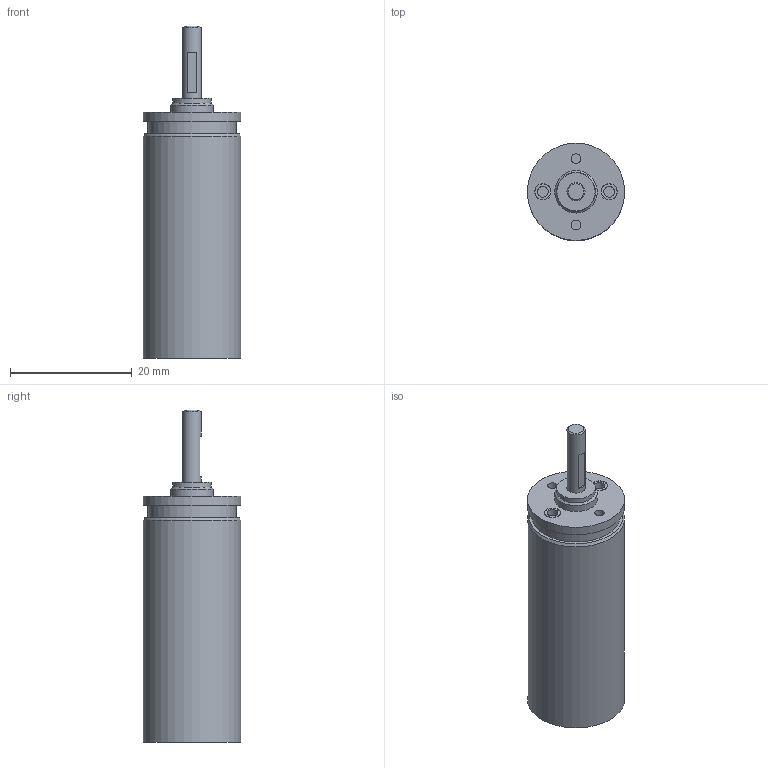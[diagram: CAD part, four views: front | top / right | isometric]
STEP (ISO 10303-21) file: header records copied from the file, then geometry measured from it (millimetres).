
FILE_DESCRIPTION(/* description */ (''),/* implementation_level */ '2;1');
FILE_NAME(/* name */ '15-5_8.stp',/* time_stamp */ '2016-08-24T14:27:02+02:00',/* author */ ('DR. FRITZ FAULHABER GmbH & Co. KG'),/* organization */ ('DR. FRITZ FAULHABER GmbH & Co. KG'),/* preprocessor_version */ 'ST-DEVELOPER v16',/* originating_system */ 'SIEMENS PLM Software NX 10.0',/* authorisation */ '');
FILE_SCHEMA (('AUTOMOTIVE_DESIGN { 1 0 10303 214 3 1 1 1 }'));
Length unit declared in the file: millimetre
Products named in the file (1): H00000514_A
Bounding box: 16 x 16 x 54.6 mm (x, y, z)
Volume: 5847.2 mm3; surface area: 3364.8 mm2
Topology: 1 solids, 1 shells, 41 faces, 64 edges, 42 vertices
Faces by surface type: plane 21, cylinder 17, cone 3
Full cylindrical faces by diameter (mm): 1.6 x2, 1.8 x2, 2.48 x1, 2.584 x2, 2.684 x2, 3 x1, 6 x1, 6.3 x1, 7 x1, 14.5 x1, 15 x1, 16 x2
Entity records: 856 total; most frequent: DIRECTION 166, CARTESIAN_POINT 126, ORIENTED_EDGE 86, AXIS2_PLACEMENT_3D 81, EDGE_LOOP 78, FACE_BOUND 69, EDGE_CURVE 43, ADVANCED_FACE 41
